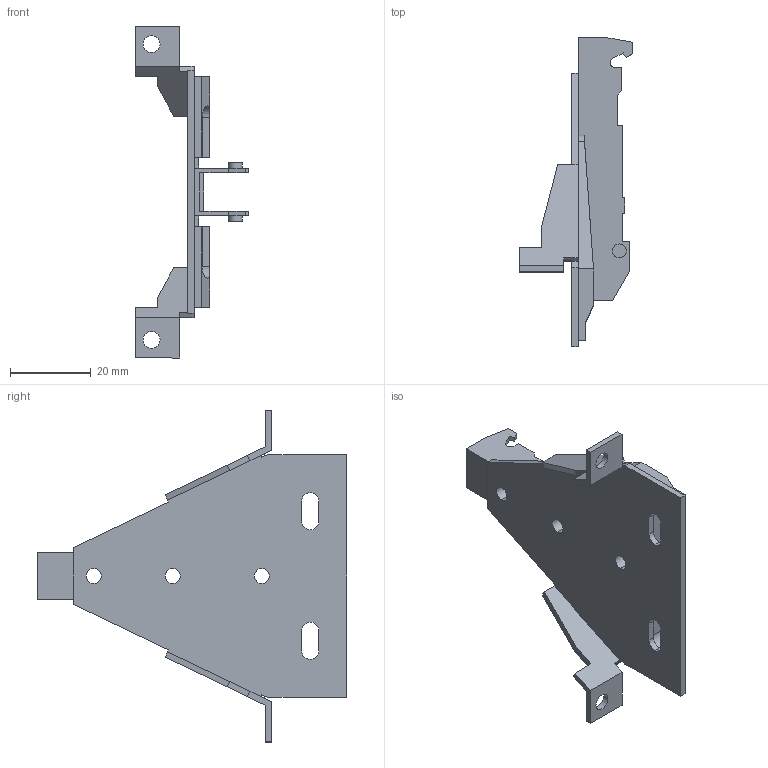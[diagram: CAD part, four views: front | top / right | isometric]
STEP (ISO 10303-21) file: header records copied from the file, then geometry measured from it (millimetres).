
FILE_DESCRIPTION (( 'STEP AP214' ), '1' );
FILE_NAME ('Eco Delta Spax Flange_H 4,5.step', '2010-11-18T10:12:00', ( 'grass' ), ( '' ), 'SwSTEP 2.0', 'SolidWorks 2010', '' );
FILE_SCHEMA (( 'AUTOMOTIVE_DESIGN' ));
Length unit declared in the file: millimetre
Products named in the file (1): Eco Delta Spax Flange_H 4,5
Bounding box: 28 x 76.45 x 82 mm (x, y, z)
Volume: 12371.9 mm3; surface area: 11417.5 mm2
Topology: 1 solids, 1 shells, 145 faces, 421 edges, 280 vertices
Faces by surface type: plane 116, cylinder 29
Entity records: 4796 total; most frequent: CARTESIAN_POINT 862, ORIENTED_EDGE 842, DIRECTION 763, EDGE_CURVE 421, VECTOR 361, LINE 361, VERTEX_POINT 280, AXIS2_PLACEMENT_3D 201
